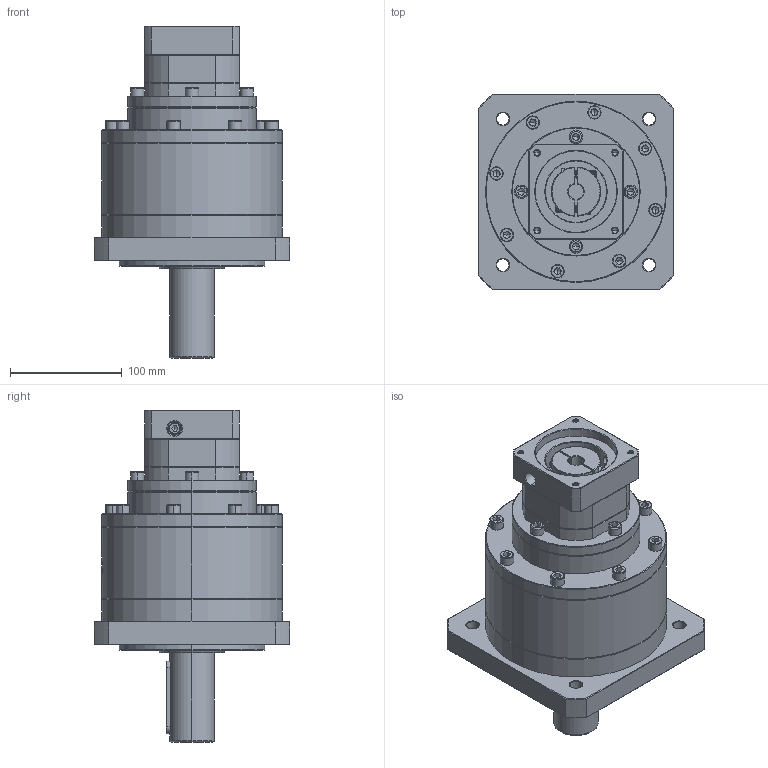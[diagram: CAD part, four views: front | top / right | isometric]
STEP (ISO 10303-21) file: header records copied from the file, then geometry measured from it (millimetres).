
FILE_DESCRIPTION (( 'STEP AP214' ), '1' );
FILE_NAME ('ZF160A-D40-L3-14-73-69.6X69.6-M6.step', '2023-03-22T07:11:18', ( '' ), ( '' ), 'SwSTEP 2.0', 'SolidWorks 2016', '' );
FILE_SCHEMA (( 'AUTOMOTIVE_DESIGN' ));
Length unit declared in the file: millimetre
Products named in the file (1): ZF160A-D40-L3-14-73-69.6X69.6-M6
Bounding box: 175 x 175 x 297.2 mm (x, y, z)
Volume: 3405235.3 mm3; surface area: 227087.7 mm2
Topology: 5 solids, 6 shells, 1850 faces, 4685 edges, 2955 vertices
Faces by surface type: plane 776, cylinder 464, cone 345, bspline 204, torus 61
Entity records: 97527 total; most frequent: CARTESIAN_POINT 34916, ORIENTED_EDGE 9262, DIRECTION 8126, EDGE_CURVE 4631, VERTEX_POINT 2955, AXIS2_PLACEMENT_3D 2812, LINE 2502, VECTOR 2502
